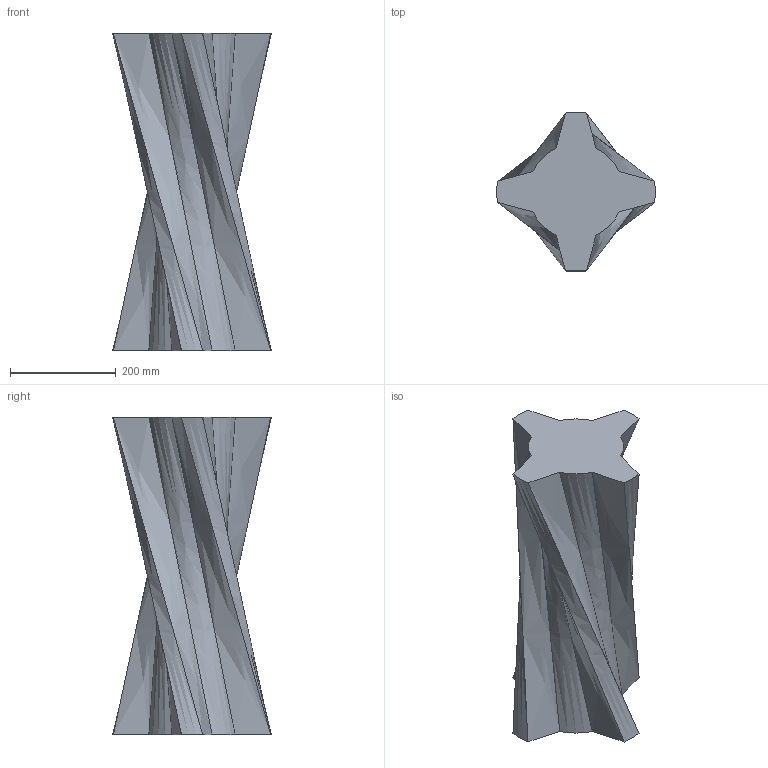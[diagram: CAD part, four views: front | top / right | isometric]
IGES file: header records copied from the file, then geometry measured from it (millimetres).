
Start section:  PTC IGES file: sweep_mesh_example02.igs
Global section: file name: sweep_mesh_example02.igs; native system: Pro/ENGINEER by Parametric Technology Corporation; preprocessor: 2004150; author: cadsoft; organization: Unknown; date: 070228.165754; units: millimetre
Bounding box: 299.7 x 299.7 x 600 mm (x, y, z)
Volume: 15767276.3 mm3; surface area: 558751.2 mm2
Topology: 1 solids, 1 shells, 18 faces, 48 edges, 32 vertices
Faces by surface type: bspline 18
